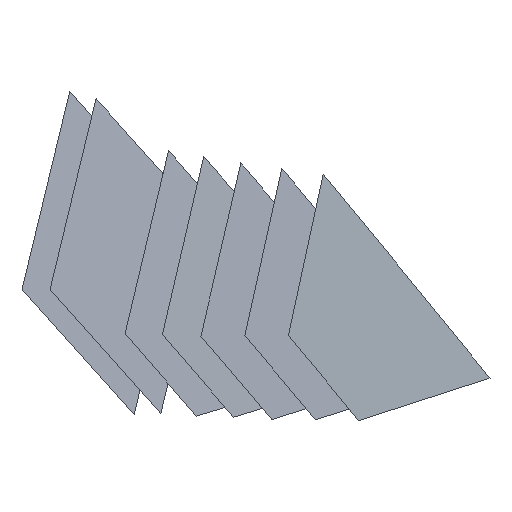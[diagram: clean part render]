
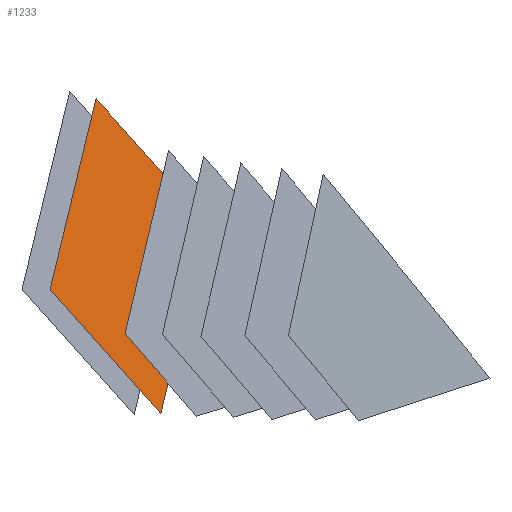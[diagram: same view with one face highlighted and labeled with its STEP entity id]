
A CAD part, left-side view. The second image highlights one B-rep face of the part: STEP entity #1233.
In plain terms, the highlighted free-form (B-spline) face has degree [1, 1] with [2, 2] control points.
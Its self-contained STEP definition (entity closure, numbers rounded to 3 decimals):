
#1233 = ADVANCED_FACE('',(#1234),#1247,.T.);
#1234 = FACE_BOUND('',#1235,.T.);
#1235 = EDGE_LOOP('',(#1236,#1257,#1271,#1285,#1299,#1313,#1327,#1341,
    #1355));
#1236 = ORIENTED_EDGE('',*,*,#1237,.T.);
#1237 = EDGE_CURVE('',#1238,#1240,#1242,.T.);
#1238 = VERTEX_POINT('',#1239);
#1239 = CARTESIAN_POINT('',(59.847,77.293,
    25.112));
#1240 = VERTEX_POINT('',#1241);
#1241 = CARTESIAN_POINT('',(59.543,77.879,
    25.771));
#1242 = SURFACE_CURVE('',#1243,(#1246),.PCURVE_S1.);
#1243 = B_SPLINE_CURVE_WITH_KNOTS('',1,(#1244,#1245),.UNSPECIFIED.,.F.,
  .F.,(2,2),(0.,0.933),.PIECEWISE_BEZIER_KNOTS.);
#1244 = CARTESIAN_POINT('',(59.847,77.293,
    25.112));
#1245 = CARTESIAN_POINT('',(59.543,77.879,
    25.771));
#1246 = PCURVE('',#1247,#1252);
#1247 = B_SPLINE_SURFACE_WITH_KNOTS('',1,1,(
    (#1248,#1249)
    ,(#1250,#1251
    )),.UNSPECIFIED.,.F.,.F.,.F.,(2,2),(2,2),(-5.099,
    5.097),(-2.848,2.837),
  .PIECEWISE_BEZIER_KNOTS.);
#1248 = CARTESIAN_POINT('',(57.23,82.338,
    29.124));
#1249 = CARTESIAN_POINT('',(59.85,77.293,
    29.122));
#1250 = CARTESIAN_POINT('',(57.223,82.338,
    18.929));
#1251 = CARTESIAN_POINT('',(59.843,77.294,
    18.927));
#1252 = DEFINITIONAL_REPRESENTATION('',(#1253),#1256);
#1253 = B_SPLINE_CURVE_WITH_KNOTS('',1,(#1254,#1255),.UNSPECIFIED.,.F.,
  .F.,(2,2),(0.,0.933),.PIECEWISE_BEZIER_KNOTS.);
#1254 = CARTESIAN_POINT('',(-1.089,2.837));
#1255 = CARTESIAN_POINT('',(-1.748,2.176));
#1256 = ( GEOMETRIC_REPRESENTATION_CONTEXT(2) 
PARAMETRIC_REPRESENTATION_CONTEXT() REPRESENTATION_CONTEXT('2D SPACE',''
  ) );
#1257 = ORIENTED_EDGE('',*,*,#1258,.T.);
#1258 = EDGE_CURVE('',#1240,#1259,#1261,.T.);
#1259 = VERTEX_POINT('',#1260);
#1260 = CARTESIAN_POINT('',(59.212,78.517,
    26.491));
#1261 = SURFACE_CURVE('',#1262,(#1265),.PCURVE_S1.);
#1262 = B_SPLINE_CURVE_WITH_KNOTS('',1,(#1263,#1264),.UNSPECIFIED.,.F.,
  .F.,(2,2),(-1.017,-0.),.PIECEWISE_BEZIER_KNOTS.);
#1263 = CARTESIAN_POINT('',(59.543,77.879,
    25.771));
#1264 = CARTESIAN_POINT('',(59.212,78.517,
    26.491));
#1265 = PCURVE('',#1247,#1266);
#1266 = DEFINITIONAL_REPRESENTATION('',(#1267),#1270);
#1267 = B_SPLINE_CURVE_WITH_KNOTS('',1,(#1268,#1269),.UNSPECIFIED.,.F.,
  .F.,(2,2),(-1.017,-0.),.PIECEWISE_BEZIER_KNOTS.);
#1268 = CARTESIAN_POINT('',(-1.748,2.176));
#1269 = CARTESIAN_POINT('',(-2.467,1.457));
#1270 = ( GEOMETRIC_REPRESENTATION_CONTEXT(2) 
PARAMETRIC_REPRESENTATION_CONTEXT() REPRESENTATION_CONTEXT('2D SPACE',''
  ) );
#1271 = ORIENTED_EDGE('',*,*,#1272,.T.);
#1272 = EDGE_CURVE('',#1259,#1273,#1275,.T.);
#1273 = VERTEX_POINT('',#1274);
#1274 = CARTESIAN_POINT('',(58.882,79.156,
    27.21));
#1275 = SURFACE_CURVE('',#1276,(#1279),.PCURVE_S1.);
#1276 = B_SPLINE_CURVE_WITH_KNOTS('',1,(#1277,#1278),.UNSPECIFIED.,.F.,
  .F.,(2,2),(-1.017,-0.),.PIECEWISE_BEZIER_KNOTS.);
#1277 = CARTESIAN_POINT('',(59.212,78.517,
    26.491));
#1278 = CARTESIAN_POINT('',(58.882,79.156,
    27.21));
#1279 = PCURVE('',#1247,#1280);
#1280 = DEFINITIONAL_REPRESENTATION('',(#1281),#1284);
#1281 = B_SPLINE_CURVE_WITH_KNOTS('',1,(#1282,#1283),.UNSPECIFIED.,.F.,
  .F.,(2,2),(-1.017,-0.),.PIECEWISE_BEZIER_KNOTS.);
#1282 = CARTESIAN_POINT('',(-2.467,1.457));
#1283 = CARTESIAN_POINT('',(-3.186,0.738));
#1284 = ( GEOMETRIC_REPRESENTATION_CONTEXT(2) 
PARAMETRIC_REPRESENTATION_CONTEXT() REPRESENTATION_CONTEXT('2D SPACE',''
  ) );
#1285 = ORIENTED_EDGE('',*,*,#1286,.T.);
#1286 = EDGE_CURVE('',#1273,#1287,#1289,.T.);
#1287 = VERTEX_POINT('',#1288);
#1288 = CARTESIAN_POINT('',(58.55,79.794,
    27.929));
#1289 = SURFACE_CURVE('',#1290,(#1293),.PCURVE_S1.);
#1290 = B_SPLINE_CURVE_WITH_KNOTS('',1,(#1291,#1292),.UNSPECIFIED.,.F.,
  .F.,(2,2),(-1.017,-0.),.PIECEWISE_BEZIER_KNOTS.);
#1291 = CARTESIAN_POINT('',(58.882,79.156,
    27.21));
#1292 = CARTESIAN_POINT('',(58.55,79.794,
    27.929));
#1293 = PCURVE('',#1247,#1294);
#1294 = DEFINITIONAL_REPRESENTATION('',(#1295),#1298);
#1295 = B_SPLINE_CURVE_WITH_KNOTS('',1,(#1296,#1297),.UNSPECIFIED.,.F.,
  .F.,(2,2),(-1.017,-0.),.PIECEWISE_BEZIER_KNOTS.);
#1296 = CARTESIAN_POINT('',(-3.186,0.738));
#1297 = CARTESIAN_POINT('',(-3.904,0.019));
#1298 = ( GEOMETRIC_REPRESENTATION_CONTEXT(2) 
PARAMETRIC_REPRESENTATION_CONTEXT() REPRESENTATION_CONTEXT('2D SPACE',''
  ) );
#1299 = ORIENTED_EDGE('',*,*,#1300,.T.);
#1300 = EDGE_CURVE('',#1287,#1301,#1303,.T.);
#1301 = VERTEX_POINT('',#1302);
#1302 = CARTESIAN_POINT('',(58.219,80.432,
    28.648));
#1303 = SURFACE_CURVE('',#1304,(#1307),.PCURVE_S1.);
#1304 = B_SPLINE_CURVE_WITH_KNOTS('',1,(#1305,#1306),.UNSPECIFIED.,.F.,
  .F.,(2,2),(-1.017,-0.),.PIECEWISE_BEZIER_KNOTS.);
#1305 = CARTESIAN_POINT('',(58.55,79.794,
    27.929));
#1306 = CARTESIAN_POINT('',(58.219,80.432,
    28.648));
#1307 = PCURVE('',#1247,#1308);
#1308 = DEFINITIONAL_REPRESENTATION('',(#1309),#1312);
#1309 = B_SPLINE_CURVE_WITH_KNOTS('',1,(#1310,#1311),.UNSPECIFIED.,.F.,
  .F.,(2,2),(-1.017,-0.),.PIECEWISE_BEZIER_KNOTS.);
#1310 = CARTESIAN_POINT('',(-3.904,0.019));
#1311 = CARTESIAN_POINT('',(-4.623,-0.7));
#1312 = ( GEOMETRIC_REPRESENTATION_CONTEXT(2) 
PARAMETRIC_REPRESENTATION_CONTEXT() REPRESENTATION_CONTEXT('2D SPACE',''
  ) );
#1313 = ORIENTED_EDGE('',*,*,#1314,.T.);
#1314 = EDGE_CURVE('',#1301,#1315,#1317,.T.);
#1315 = VERTEX_POINT('',#1316);
#1316 = CARTESIAN_POINT('',(58.002,80.851,
    29.123));
#1317 = SURFACE_CURVE('',#1318,(#1321),.PCURVE_S1.);
#1318 = B_SPLINE_CURVE_WITH_KNOTS('',1,(#1319,#1320),.UNSPECIFIED.,.F.,
  .F.,(2,2),(-0.67,-0.),.PIECEWISE_BEZIER_KNOTS.);
#1319 = CARTESIAN_POINT('',(58.219,80.432,
    28.648));
#1320 = CARTESIAN_POINT('',(58.002,80.851,
    29.123));
#1321 = PCURVE('',#1247,#1322);
#1322 = DEFINITIONAL_REPRESENTATION('',(#1323),#1326);
#1323 = B_SPLINE_CURVE_WITH_KNOTS('',1,(#1324,#1325),.UNSPECIFIED.,.F.,
  .F.,(2,2),(-0.67,-0.),.PIECEWISE_BEZIER_KNOTS.);
#1324 = CARTESIAN_POINT('',(-4.623,-0.7));
#1325 = CARTESIAN_POINT('',(-5.099,-1.173));
#1326 = ( GEOMETRIC_REPRESENTATION_CONTEXT(2) 
PARAMETRIC_REPRESENTATION_CONTEXT() REPRESENTATION_CONTEXT('2D SPACE',''
  ) );
#1327 = ORIENTED_EDGE('',*,*,#1328,.T.);
#1328 = EDGE_CURVE('',#1315,#1329,#1331,.T.);
#1329 = VERTEX_POINT('',#1330);
#1330 = CARTESIAN_POINT('',(57.226,82.338,
    22.952));
#1331 = SURFACE_CURVE('',#1332,(#1335),.PCURVE_S1.);
#1332 = B_SPLINE_CURVE_WITH_KNOTS('',1,(#1333,#1334),.UNSPECIFIED.,.F.,
  .F.,(2,2),(-6.396,-0.),.PIECEWISE_BEZIER_KNOTS.);
#1333 = CARTESIAN_POINT('',(58.002,80.851,
    29.123));
#1334 = CARTESIAN_POINT('',(57.226,82.338,
    22.952));
#1335 = PCURVE('',#1247,#1336);
#1336 = DEFINITIONAL_REPRESENTATION('',(#1337),#1340);
#1337 = B_SPLINE_CURVE_WITH_KNOTS('',1,(#1338,#1339),.UNSPECIFIED.,.F.,
  .F.,(2,2),(-6.396,-0.),.PIECEWISE_BEZIER_KNOTS.);
#1338 = CARTESIAN_POINT('',(-5.099,-1.173));
#1339 = CARTESIAN_POINT('',(1.074,-2.848));
#1340 = ( GEOMETRIC_REPRESENTATION_CONTEXT(2) 
PARAMETRIC_REPRESENTATION_CONTEXT() REPRESENTATION_CONTEXT('2D SPACE',''
  ) );
#1341 = ORIENTED_EDGE('',*,*,#1342,.T.);
#1342 = EDGE_CURVE('',#1329,#1343,#1345,.T.);
#1343 = VERTEX_POINT('',#1344);
#1344 = CARTESIAN_POINT('',(59.082,78.758,
    18.927));
#1345 = SURFACE_CURVE('',#1346,(#1349),.PCURVE_S1.);
#1346 = B_SPLINE_CURVE_WITH_KNOTS('',1,(#1347,#1348),.UNSPECIFIED.,.F.,
  .F.,(2,2),(0.,5.697),.PIECEWISE_BEZIER_KNOTS.);
#1347 = CARTESIAN_POINT('',(57.226,82.338,
    22.952));
#1348 = CARTESIAN_POINT('',(59.082,78.758,
    18.927));
#1349 = PCURVE('',#1247,#1350);
#1350 = DEFINITIONAL_REPRESENTATION('',(#1351),#1354);
#1351 = B_SPLINE_CURVE_WITH_KNOTS('',1,(#1352,#1353),.UNSPECIFIED.,.F.,
  .F.,(2,2),(0.,5.697),.PIECEWISE_BEZIER_KNOTS.);
#1352 = CARTESIAN_POINT('',(1.074,-2.848));
#1353 = CARTESIAN_POINT('',(5.097,1.186));
#1354 = ( GEOMETRIC_REPRESENTATION_CONTEXT(2) 
PARAMETRIC_REPRESENTATION_CONTEXT() REPRESENTATION_CONTEXT('2D SPACE',''
  ) );
#1355 = ORIENTED_EDGE('',*,*,#1356,.T.);
#1356 = EDGE_CURVE('',#1343,#1238,#1357,.T.);
#1357 = SURFACE_CURVE('',#1358,(#1361),.PCURVE_S1.);
#1358 = B_SPLINE_CURVE_WITH_KNOTS('',1,(#1359,#1360),.UNSPECIFIED.,.F.,
  .F.,(2,2),(0.,6.402),.PIECEWISE_BEZIER_KNOTS.);
#1359 = CARTESIAN_POINT('',(59.082,78.758,
    18.927));
#1360 = CARTESIAN_POINT('',(59.847,77.293,
    25.112));
#1361 = PCURVE('',#1247,#1362);
#1362 = DEFINITIONAL_REPRESENTATION('',(#1363),#1366);
#1363 = B_SPLINE_CURVE_WITH_KNOTS('',1,(#1364,#1365),.UNSPECIFIED.,.F.,
  .F.,(2,2),(0.,6.402),.PIECEWISE_BEZIER_KNOTS.);
#1364 = CARTESIAN_POINT('',(5.097,1.186));
#1365 = CARTESIAN_POINT('',(-1.089,2.837));
#1366 = ( GEOMETRIC_REPRESENTATION_CONTEXT(2) 
PARAMETRIC_REPRESENTATION_CONTEXT() REPRESENTATION_CONTEXT('2D SPACE',''
  ) );
